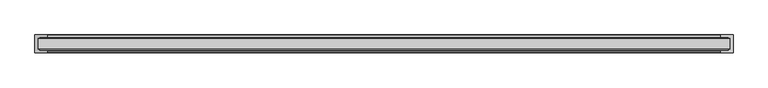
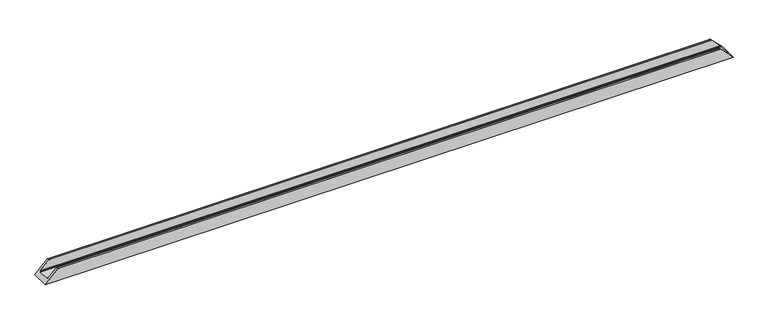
"""IFC4 building model written with IfcOpenShell, lengths in millimetres: proxy geometry, Weiku - Montante - Caixilho único 02.3.02.403 : Weiku - Montante - Caixilho único 02.3.02.403."""

from ifc_helpers import new_model, si_unit, frame, origin, place, context, project, spatial, ellipse_curve, source, transform, mapped, element, save
from ifc_brep_helpers import plane_surface, cylinder_surface, advanced_brep


def generic_models_e8165090(model_context):
    return source(origin(), model_context, "Body", "AdvancedBrep", [
        advanced_brep(
        [(-1510.0, 9.8, 18.2), (-1472.3, 9.8, 55.9), (1472.3, 9.8, 55.9), (1510.0, 9.8, 18.2), (-1512.5000079, 63.85, 15.6999921), (-1512.5000079, 15.05, 15.6999921), (1512.5000079, 15.05, 15.6999921), (1512.5000079, 63.85, 15.6999921), (-1528.2, 78.9, 0.0), (1528.2, 78.9, 0.0), (1528.2, 0.0, 0.0), (-1528.2, 0.0, 0.0), (1472.3, 0.0, 55.9), (-1472.3, 0.0, 55.9), (-1471.8, 9.3, 56.4), (-1471.8, 0.5, 56.4), (1471.8, 0.5, 56.4), (1471.8, 9.3, 56.4), (-1510.0, 15.05, 18.2), (1510.0, 15.05, 18.2), (-1510.0, 63.85, 18.2), (1510.0, 63.85, 18.2), (-1510.0, 69.1, 18.2), (1510.0, 69.1, 18.2), (-1472.3, 69.1, 55.9), (1472.3, 69.1, 55.9), (-1471.8, 78.4, 56.4), (-1471.8, 69.6, 56.4), (1471.8, 69.6, 56.4), (1471.8, 78.4, 56.4), (-1472.3, 78.9, 55.9), (1472.3, 78.9, 55.9)],
        [
            (0, 1),
            (1, 2),
            (2, 3),
            (3, 0),
            (4, 5),
            (5, 6),
            (6, 7),
            (7, 4),
            (8, 9),
            (9, 10),
            (10, 11),
            (11, 8),
            (10, 12),
            (12, 13),
            (13, 11),
            (14, 15),
            (15, 16),
            (16, 17),
            (17, 14),
            (18, 0),
            (3, 19),
            (19, 18),
            (5, 18),
            (19, 6),
            (15, 13, ellipse_curve(frame((-1472.3, 0.5, 55.9), z_axis=(0.7071067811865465, 0.0, -0.7071067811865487), x_axis=(-0.7071067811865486, 0.0, -0.7071067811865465)), 0.7071068, 0.5)),
            (12, 16, ellipse_curve(frame((1472.3, 0.5, 55.9), z_axis=(-0.7071067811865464, 0.0, -0.7071067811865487), x_axis=(-0.7071067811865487, 0.0, 0.7071067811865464)), 0.7071068, 0.5)),
            (20, 4),
            (7, 21),
            (21, 20),
            (22, 20),
            (21, 23),
            (23, 22),
            (24, 22),
            (23, 25),
            (25, 24),
            (26, 27),
            (27, 28),
            (28, 29),
            (29, 26),
            (30, 26, ellipse_curve(frame((-1472.3, 78.4, 55.9), z_axis=(0.7071067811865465, 0.0, -0.7071067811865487), x_axis=(-0.7071067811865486, 0.0, -0.7071067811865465)), 0.7071068, 0.5)),
            (29, 31, ellipse_curve(frame((1472.3, 78.4, 55.9), z_axis=(-0.7071067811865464, 0.0, -0.7071067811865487), x_axis=(-0.7071067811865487, 0.0, 0.7071067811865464)), 0.7071068, 0.5)),
            (31, 30),
            (8, 30),
            (31, 9),
            (1, 14, ellipse_curve(frame((-1472.3, 9.3, 55.9), z_axis=(0.7071067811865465, 0.0, -0.7071067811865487), x_axis=(-0.7071067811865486, 0.0, -0.7071067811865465)), 0.7071068, 0.5)),
            (17, 2, ellipse_curve(frame((1472.3, 9.3, 55.9), z_axis=(-0.7071067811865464, 0.0, -0.7071067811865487), x_axis=(-0.7071067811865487, 0.0, 0.7071067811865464)), 0.7071068, 0.5)),
            (27, 24, ellipse_curve(frame((-1472.3, 69.6, 55.9), z_axis=(0.7071067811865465, 0.0, -0.7071067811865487), x_axis=(-0.7071067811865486, 0.0, -0.7071067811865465)), 0.7071068, 0.5)),
            (25, 28, ellipse_curve(frame((1472.3, 69.6, 55.9), z_axis=(-0.7071067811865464, 0.0, -0.7071067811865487), x_axis=(-0.7071067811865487, 0.0, 0.7071067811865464)), 0.7071068, 0.5)),
        ],
        [
            plane_surface(frame((-1528.2, 9.8, 55.9), z_axis=(0.0, 1.0, 0.0), x_axis=(1.0, 0.0, 0.0))),
            plane_surface(frame((-1528.2, 15.05, 15.6999921), z_axis=(0.0, 0.0, 1.0), x_axis=(1.0, 0.0, 0.0))),
            plane_surface(frame((-1528.2, 78.9, 0.0), z_axis=(0.0, 0.0, -1.0), x_axis=(1.0, 0.0, 0.0))),
            plane_surface(frame((-1528.2, 0.0, 0.0), z_axis=(0.0, -1.0, 0.0), x_axis=(1.0, 0.0, 0.0))),
            plane_surface(frame((-1528.2, 0.5, 56.4), z_axis=(0.0, 0.0, 1.0), x_axis=(1.0, 0.0, 0.0))),
            plane_surface(frame((-1528.2, 9.8, 18.2), z_axis=(0.0, 0.0, 1.0), x_axis=(1.0, 0.0, 0.0))),
            plane_surface(frame((-1528.2, 15.05, 18.2), z_axis=(0.0, 1.0, 0.0), x_axis=(1.0, 0.0, 0.0))),
            cylinder_surface(frame((-1528.2, 0.5, 55.9), z_axis=(-1.0, 0.0, 0.0), x_axis=(0.0, 1.0, 0.0)), 0.5),
            plane_surface(frame((-1528.2, 63.85, 15.6999921), z_axis=(0.0, -1.0, 0.0), x_axis=(1.0, 0.0, 0.0))),
            plane_surface(frame((-1528.2, 63.85, 18.2), z_axis=(0.0, 0.0, 1.0), x_axis=(1.0, 0.0, 0.0))),
            plane_surface(frame((-1528.2, 69.1, 18.2), z_axis=(0.0, -1.0, 0.0), x_axis=(1.0, 0.0, 0.0))),
            plane_surface(frame((-1528.2, 69.6, 56.4), z_axis=(0.0, 0.0, 1.0), x_axis=(1.0, 0.0, 0.0))),
            cylinder_surface(frame((-1528.2, 78.4, 55.9), z_axis=(-1.0, 0.0, 0.0), x_axis=(0.0, -1.0, 0.0)), 0.5),
            plane_surface(frame((-1528.2, 78.9, 55.9), z_axis=(0.0, 1.0, 0.0), x_axis=(1.0, 0.0, 0.0))),
            cylinder_surface(frame((-1528.2, 9.3, 55.9), z_axis=(-1.0, 0.0, 0.0), x_axis=(0.0, 1.0, 0.0)), 0.5),
            cylinder_surface(frame((-1528.2, 69.6, 55.9), z_axis=(-1.0, 0.0, 0.0), x_axis=(0.0, 1.0, 0.0)), 0.5),
            plane_surface(frame((-1528.2, 0.0, 0.0), z_axis=(-0.7071067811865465, 0.0, 0.7071067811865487), x_axis=(0.0, 1.0, 0.0))),
            plane_surface(frame((1468.2, 0.0, 60.0), z_axis=(0.7071067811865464, 0.0, 0.7071067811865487), x_axis=(0.0, 1.0, 0.0))),
        ],
        [
            (0, [[1, 2, 3, 4]]),
            (1, [[5, 6, 7, 8]]),
            (2, [[9, 10, 11, 12]]),
            (3, [[-11, 13, 14, 15]]),
            (4, [[16, 17, 18, 19]]),
            (5, [[20, -4, 21, 22]]),
            (6, [[23, -22, 24, -6]]),
            (7, [[25, -14, 26, -17]]),
            (8, [[27, -8, 28, 29]]),
            (9, [[30, -29, 31, 32]]),
            (10, [[33, -32, 34, 35]]),
            (11, [[36, 37, 38, 39]]),
            (12, [[40, -39, 41, 42]]),
            (13, [[-9, 43, -42, 44]]),
            (14, [[45, -19, 46, -2]]),
            (15, [[47, -35, 48, -37]]),
            (16, [[-1, -20, -23, -5, -27, -30, -33, -47, -36, -40, -43, -12, -15, -25, -16, -45]]),
            (17, [[-3, -46, -18, -26, -13, -10, -44, -41, -38, -48, -34, -31, -28, -7, -24, -21]]),
        ],
    ),
    ])


if __name__ == "__main__":
    model = new_model("IFC4")
    model_context = context("Model", 3, world=origin())
    ifc_project = project(units=[si_unit("LENGTHUNIT", "METRE", prefix="MILLI")], contexts=[model_context])
    site = spatial("IfcSite", under=ifc_project)
    building = spatial("IfcBuilding", under=site)
    placement = place(None, origin())
    generic_models_shape = generic_models_e8165090(model_context)
    element("IfcBuildingElementProxy", 1, Name="Weiku - Montante - Caixilho único 02.3.02.403 : Weiku - Montante - Caixilho único 02.3.02.403", ObjectType="Weiku - Montante - Caixilho único 02.3.02.403 : Weiku - Montante - Caixilho único 02.3.02.403", at=placement, inside=building, context=model_context, shape_type="MappedRepresentation", body=[
        mapped(generic_models_shape, transform((0.0, 0.0, 0.0), x_axis=(1.0, 0.0, 0.0), y_axis=(0.0, 1.0, 0.0), z_axis=(0.0, 0.0, 1.0))),
    ])
    save(model, "model.ifc")
